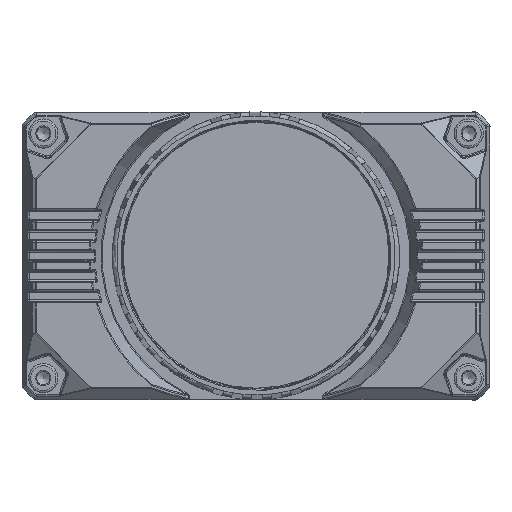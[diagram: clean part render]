
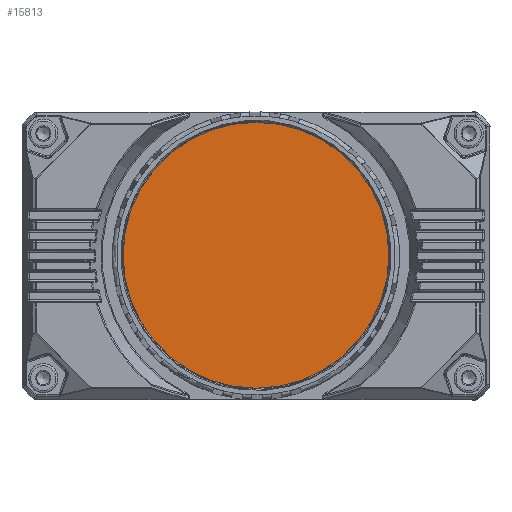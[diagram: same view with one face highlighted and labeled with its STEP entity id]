
A CAD part, top view. The second image highlights one B-rep face of the part: STEP entity #15813.
In plain terms, the highlighted planar face has unit normal (0, 0, 1).
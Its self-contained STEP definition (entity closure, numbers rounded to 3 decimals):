
#10852=CIRCLE('',#60455,25.);
#15813=ADVANCED_FACE('',(#20175),#18241,.T.);
#18241=PLANE('',#60458);
#20175=FACE_OUTER_BOUND('',#23446,.T.);
#23446=EDGE_LOOP('',(#33621));
#33621=ORIENTED_EDGE('',*,*,#48495,.T.);
#42626=VERTEX_POINT('',#99523);
#48495=EDGE_CURVE('',#42626,#42626,#10852,.T.);
#60455=AXIS2_PLACEMENT_3D('',#99522,#70224,#70225);
#60458=AXIS2_PLACEMENT_3D('',#99527,#70230,#70231);
#70224=DIRECTION('',(0.,0.,1.));
#70225=DIRECTION('',(1.,0.,0.));
#70230=DIRECTION('',(0.,0.,1.));
#70231=DIRECTION('',(-1.,0.,0.));
#99522=CARTESIAN_POINT('',(0.,0.,110.8));
#99523=CARTESIAN_POINT('',(25.,0.,110.8));
#99527=CARTESIAN_POINT('',(0.,0.,110.8));
